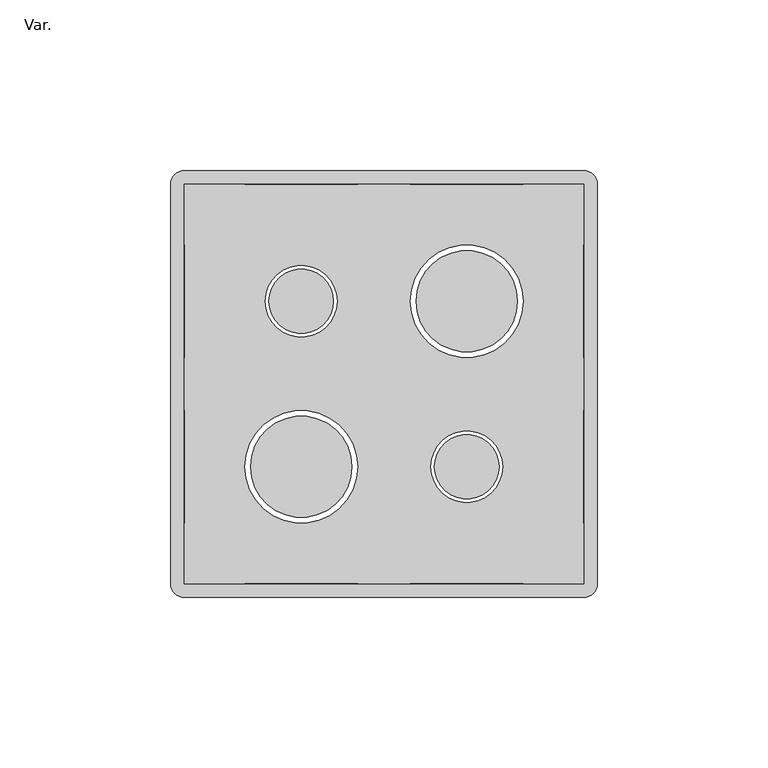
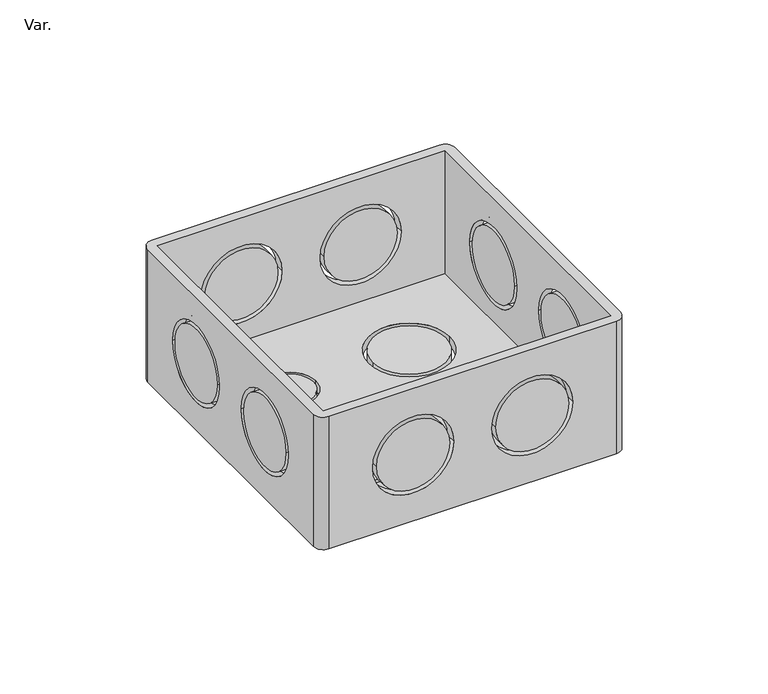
"""IFC4 building model written with IfcOpenShell, lengths in millimetres: cable carrier fitting geometry."""

from ifc_helpers import new_model, si_unit, frame, origin, place, context, project, spatial, polyline, circle_curve, source, transform, mapped, element, save
from ifc_brep_helpers import plane_surface, cylinder_surface, revolved_surface, advanced_brep


def var_0c476a5f(model_context):
    return source(origin(), model_context, "Body", "AdvancedBrep", [
        advanced_brep(
        [(58.5, 62.5, 28.5), (-58.5, 62.5, 28.5), (-62.5, 58.5, 28.5), (-62.5, -58.5, 28.5), (-58.5, -62.5, 28.5), (58.5, -62.5, 28.5), (62.5, -58.5, 28.5), (62.5, 58.5, 28.5), (-58.5, 58.5, 28.5), (58.5, 58.5, 28.5), (58.5, -58.5, 28.5), (-58.5, -58.5, 28.5), (58.5, 62.5, -28.5), (62.5, 58.5, -28.5), (62.5, -58.5, -28.5), (58.5, -62.5, -28.5), (-58.5, -62.5, -28.5), (-62.5, -58.5, -28.5), (-62.5, 58.5, -28.5), (-58.5, 62.5, -28.5), (7.75, 24.25, -28.5), (40.75, 24.25, -28.5), (-40.75, -24.25, -28.5), (-7.75, -24.25, -28.5), (-34.75, 24.25, -28.5), (-13.75, 24.25, -28.5), (13.75, -24.25, -28.5), (34.75, -24.25, -28.5), (-40.75, 62.5, 0.0), (-7.75, 62.5, 0.0), (7.75, 62.5, 0.0), (40.75, 62.5, 0.0), (-62.5, 7.75, 0.0), (-62.5, 40.75, 0.0), (-62.5, -40.75, 0.0), (-62.5, -7.75, 0.0), (-7.75, -62.5, 0.0), (-40.75, -62.5, 0.0), (40.75, -62.5, 0.0), (7.75, -62.5, 0.0), (62.5, 40.75, 0.0), (62.5, 7.75, 0.0), (62.5, -7.75, 0.0), (62.5, -40.75, 0.0), (58.5, 58.5, -24.5), (-58.5, 58.5, -24.5), (-58.5, -58.5, -24.5), (58.5, -58.5, -24.5), (40.75, 24.25, -24.5), (7.75, 24.25, -24.5), (-7.75, -24.25, -24.5), (-40.75, -24.25, -24.5), (-13.75, 24.25, -24.5), (-34.75, 24.25, -24.5), (34.75, -24.25, -24.5), (13.75, -24.25, -24.5), (-7.75, 58.5, 0.0), (-40.75, 58.5, 0.0), (40.75, 58.5, 0.0), (7.75, 58.5, 0.0), (-58.5, 40.75, 0.0), (-58.5, 7.75, 0.0), (-58.5, -7.75, 0.0), (-58.5, -40.75, 0.0), (-40.75, -58.5, 0.0), (-7.75, -58.5, 0.0), (7.75, -58.5, 0.0), (40.75, -58.5, 0.0), (58.5, 7.75, 0.0), (58.5, 40.75, 0.0), (58.5, -40.75, 0.0), (58.5, -7.75, 0.0)],
        [
            (0, 1),
            (1, 2, circle_curve(frame((-58.5, 58.5, 28.5), z_axis=(0.0, 0.0, 1.0), x_axis=(1.0, 0.0, 0.0)), 4.0)),
            (2, 3),
            (3, 4, circle_curve(frame((-58.5, -58.5, 28.5), z_axis=(0.0, 0.0, 1.0), x_axis=(1.0, 0.0, 0.0)), 4.0)),
            (4, 5),
            (5, 6, circle_curve(frame((58.5, -58.5, 28.5), z_axis=(0.0, 0.0, 1.0), x_axis=(1.0, 0.0, 0.0)), 4.0)),
            (6, 7),
            (7, 0, circle_curve(frame((58.5, 58.5, 28.5), z_axis=(0.0, 0.0, 1.0), x_axis=(1.0, 0.0, 0.0)), 4.0)),
            (8, 9),
            (9, 10),
            (10, 11),
            (11, 8),
            (12, 13, circle_curve(frame((58.5, 58.5, -28.5), z_axis=(0.0, 0.0, -1.0), x_axis=(1.0, 0.0, 0.0)), 4.0)),
            (13, 14),
            (14, 15, circle_curve(frame((58.5, -58.5, -28.5), z_axis=(0.0, 0.0, -1.0), x_axis=(1.0, 0.0, 0.0)), 4.0)),
            (15, 16),
            (16, 17, circle_curve(frame((-58.5, -58.5, -28.5), z_axis=(0.0, 0.0, -1.0), x_axis=(1.0, 0.0, 0.0)), 4.0)),
            (17, 18),
            (18, 19, circle_curve(frame((-58.5, 58.5, -28.5), z_axis=(0.0, 0.0, -1.0), x_axis=(1.0, 0.0, 0.0)), 4.0)),
            (19, 12),
            (20, 21, circle_curve(frame((24.25, 24.25, -28.5), z_axis=(0.0, 0.0, 1.0), x_axis=(1.0, 0.0, 0.0)), 16.5)),
            (21, 20, circle_curve(frame((24.25, 24.25, -28.5), z_axis=(0.0, 0.0, 1.0), x_axis=(1.0, 0.0, 0.0)), 16.5)),
            (22, 23, circle_curve(frame((-24.25, -24.25, -28.5), z_axis=(0.0, 0.0, 1.0), x_axis=(1.0, 0.0, 0.0)), 16.5)),
            (23, 22, circle_curve(frame((-24.25, -24.25, -28.5), z_axis=(0.0, 0.0, 1.0), x_axis=(1.0, 0.0, 0.0)), 16.5)),
            (24, 25, circle_curve(frame((-24.25, 24.25, -28.5), z_axis=(0.0, 0.0, 1.0), x_axis=(1.0, 0.0, 0.0)), 10.5)),
            (25, 24, circle_curve(frame((-24.25, 24.25, -28.5), z_axis=(0.0, 0.0, 1.0), x_axis=(1.0, 0.0, 0.0)), 10.5)),
            (26, 27, circle_curve(frame((24.25, -24.25, -28.5), z_axis=(0.0, 0.0, 1.0), x_axis=(1.0, 0.0, 0.0)), 10.5)),
            (27, 26, circle_curve(frame((24.25, -24.25, -28.5), z_axis=(0.0, 0.0, 1.0), x_axis=(1.0, 0.0, 0.0)), 10.5)),
            (0, 12),
            (19, 1),
            (28, 29, circle_curve(frame((-24.25, 62.5, 0.0), z_axis=(0.0, -1.0, 0.0), x_axis=(1.0, 0.0, 0.0)), 16.5)),
            (29, 28, circle_curve(frame((-24.25, 62.5, 0.0), z_axis=(0.0, -1.0, 0.0), x_axis=(1.0, 0.0, 0.0)), 16.5)),
            (30, 31, circle_curve(frame((24.25, 62.5, 0.0), z_axis=(0.0, -1.0, 0.0), x_axis=(1.0, 0.0, 0.0)), 16.5)),
            (31, 30, circle_curve(frame((24.25, 62.5, 0.0), z_axis=(0.0, -1.0, 0.0), x_axis=(1.0, 0.0, 0.0)), 16.5)),
            (18, 2),
            (17, 3),
            (32, 33, circle_curve(frame((-62.5, 24.25, 0.0), z_axis=(1.0, 0.0, 0.0), x_axis=(0.0, -1.0, 0.0)), 16.5)),
            (33, 32, circle_curve(frame((-62.5, 24.25, 0.0), z_axis=(1.0, 0.0, 0.0), x_axis=(0.0, -1.0, 0.0)), 16.5)),
            (34, 35, circle_curve(frame((-62.5, -24.25, 0.0), z_axis=(1.0, 0.0, 0.0), x_axis=(0.0, -1.0, 0.0)), 16.5)),
            (35, 34, circle_curve(frame((-62.5, -24.25, 0.0), z_axis=(1.0, 0.0, 0.0), x_axis=(0.0, -1.0, 0.0)), 16.5)),
            (16, 4),
            (15, 5),
            (36, 37, circle_curve(frame((-24.25, -62.5, 0.0), z_axis=(0.0, 1.0, 0.0), x_axis=(1.0, 0.0, 0.0)), 16.5)),
            (37, 36, circle_curve(frame((-24.25, -62.5, 0.0), z_axis=(0.0, 1.0, 0.0), x_axis=(1.0, 0.0, 0.0)), 16.5)),
            (38, 39, circle_curve(frame((24.25, -62.5, 0.0), z_axis=(0.0, 1.0, 0.0), x_axis=(1.0, 0.0, 0.0)), 16.5)),
            (39, 38, circle_curve(frame((24.25, -62.5, 0.0), z_axis=(0.0, 1.0, 0.0), x_axis=(1.0, 0.0, 0.0)), 16.5)),
            (14, 6),
            (13, 7),
            (40, 41, circle_curve(frame((62.5, 24.25, 0.0), z_axis=(-1.0, 0.0, 0.0), x_axis=(0.0, -1.0, 0.0)), 16.5)),
            (41, 40, circle_curve(frame((62.5, 24.25, 0.0), z_axis=(-1.0, 0.0, 0.0), x_axis=(0.0, -1.0, 0.0)), 16.5)),
            (42, 43, circle_curve(frame((62.5, -24.25, 0.0), z_axis=(-1.0, 0.0, 0.0), x_axis=(0.0, -1.0, 0.0)), 16.5)),
            (43, 42, circle_curve(frame((62.5, -24.25, 0.0), z_axis=(-1.0, 0.0, 0.0), x_axis=(0.0, -1.0, 0.0)), 16.5)),
            (44, 45),
            (45, 46),
            (46, 47),
            (47, 44),
            (48, 49, circle_curve(frame((24.25, 24.25, -24.5), z_axis=(0.0, 0.0, -1.0), x_axis=(1.0, 0.0, 0.0)), 16.5)),
            (49, 48, circle_curve(frame((24.25, 24.25, -24.5), z_axis=(0.0, 0.0, -1.0), x_axis=(1.0, 0.0, 0.0)), 16.5)),
            (50, 51, circle_curve(frame((-24.25, -24.25, -24.5), z_axis=(0.0, 0.0, -1.0), x_axis=(1.0, 0.0, 0.0)), 16.5)),
            (51, 50, circle_curve(frame((-24.25, -24.25, -24.5), z_axis=(0.0, 0.0, -1.0), x_axis=(1.0, 0.0, 0.0)), 16.5)),
            (52, 53, circle_curve(frame((-24.25, 24.25, -24.5), z_axis=(0.0, 0.0, -1.0), x_axis=(1.0, 0.0, 0.0)), 10.5)),
            (53, 52, circle_curve(frame((-24.25, 24.25, -24.5), z_axis=(0.0, 0.0, -1.0), x_axis=(1.0, 0.0, 0.0)), 10.5)),
            (54, 55, circle_curve(frame((24.25, -24.25, -24.5), z_axis=(0.0, 0.0, -1.0), x_axis=(1.0, 0.0, 0.0)), 10.5)),
            (55, 54, circle_curve(frame((24.25, -24.25, -24.5), z_axis=(0.0, 0.0, -1.0), x_axis=(1.0, 0.0, 0.0)), 10.5)),
            (44, 9),
            (8, 45),
            (56, 57, circle_curve(frame((-24.25, 58.5, 0.0), z_axis=(0.0, 1.0, 0.0), x_axis=(1.0, 0.0, 0.0)), 16.5)),
            (57, 56, circle_curve(frame((-24.25, 58.5, 0.0), z_axis=(0.0, 1.0, 0.0), x_axis=(1.0, 0.0, 0.0)), 16.5)),
            (58, 59, circle_curve(frame((24.25, 58.5, 0.0), z_axis=(0.0, 1.0, 0.0), x_axis=(1.0, 0.0, 0.0)), 16.5)),
            (59, 58, circle_curve(frame((24.25, 58.5, 0.0), z_axis=(0.0, 1.0, 0.0), x_axis=(1.0, 0.0, 0.0)), 16.5)),
            (11, 46),
            (60, 61, circle_curve(frame((-58.5, 24.25, 0.0), z_axis=(-1.0, 0.0, 0.0), x_axis=(0.0, -1.0, 0.0)), 16.5)),
            (61, 60, circle_curve(frame((-58.5, 24.25, 0.0), z_axis=(-1.0, 0.0, 0.0), x_axis=(0.0, -1.0, 0.0)), 16.5)),
            (62, 63, circle_curve(frame((-58.5, -24.25, 0.0), z_axis=(-1.0, 0.0, 0.0), x_axis=(0.0, -1.0, 0.0)), 16.5)),
            (63, 62, circle_curve(frame((-58.5, -24.25, 0.0), z_axis=(-1.0, 0.0, 0.0), x_axis=(0.0, -1.0, 0.0)), 16.5)),
            (10, 47),
            (64, 65, circle_curve(frame((-24.25, -58.5, 0.0), z_axis=(0.0, -1.0, 0.0), x_axis=(1.0, 0.0, 0.0)), 16.5)),
            (65, 64, circle_curve(frame((-24.25, -58.5, 0.0), z_axis=(0.0, -1.0, 0.0), x_axis=(1.0, 0.0, 0.0)), 16.5)),
            (66, 67, circle_curve(frame((24.25, -58.5, 0.0), z_axis=(0.0, -1.0, 0.0), x_axis=(1.0, 0.0, 0.0)), 16.5)),
            (67, 66, circle_curve(frame((24.25, -58.5, 0.0), z_axis=(0.0, -1.0, 0.0), x_axis=(1.0, 0.0, 0.0)), 16.5)),
            (68, 69, circle_curve(frame((58.5, 24.25, 0.0), z_axis=(1.0, 0.0, 0.0), x_axis=(0.0, -1.0, 0.0)), 16.5)),
            (69, 68, circle_curve(frame((58.5, 24.25, 0.0), z_axis=(1.0, 0.0, 0.0), x_axis=(0.0, -1.0, 0.0)), 16.5)),
            (70, 71, circle_curve(frame((58.5, -24.25, 0.0), z_axis=(1.0, 0.0, 0.0), x_axis=(0.0, -1.0, 0.0)), 16.5)),
            (71, 70, circle_curve(frame((58.5, -24.25, 0.0), z_axis=(1.0, 0.0, 0.0), x_axis=(0.0, -1.0, 0.0)), 16.5)),
            (28, 57),
            (56, 29),
            (64, 37),
            (36, 65),
            (30, 59),
            (58, 31),
            (66, 39),
            (38, 67),
            (60, 33),
            (32, 61),
            (40, 69),
            (68, 41),
            (62, 35),
            (34, 63),
            (42, 71),
            (70, 43),
            (20, 49),
            (48, 21),
            (22, 51),
            (50, 23),
            (24, 53),
            (52, 25),
            (26, 55),
            (54, 27),
        ],
        [
            plane_surface(frame((-58.5, 62.5, 28.5), z_axis=(0.0, 0.0, 1.0), x_axis=(-1.0, 0.0, 0.0))),
            plane_surface(frame((-58.5, 62.5, -28.5), z_axis=(0.0, 0.0, -1.0), x_axis=(1.0, 0.0, 0.0))),
            plane_surface(frame((58.5, 62.5, 28.5), z_axis=(0.0, 1.0, 0.0), x_axis=(0.0, 0.0, -1.0))),
            cylinder_surface(frame((-58.5, 58.5, -28.5), z_axis=(0.0, 0.0, 1.0), x_axis=(1.0, 0.0, 0.0)), 4.0),
            plane_surface(frame((-62.5, 58.5, 28.5), z_axis=(-1.0, 0.0, 0.0), x_axis=(0.0, 0.0, -1.0))),
            cylinder_surface(frame((-58.5, -58.5, -28.5), z_axis=(0.0, 0.0, 1.0), x_axis=(1.0, 0.0, 0.0)), 4.0),
            plane_surface(frame((-58.5, -62.5, 28.5), z_axis=(0.0, -1.0, 0.0), x_axis=(0.0, 0.0, -1.0))),
            cylinder_surface(frame((58.5, -58.5, -28.5), z_axis=(0.0, 0.0, 1.0), x_axis=(1.0, 0.0, 0.0)), 4.0),
            plane_surface(frame((62.5, -58.5, 28.5), z_axis=(1.0, 0.0, 0.0), x_axis=(0.0, 0.0, -1.0))),
            cylinder_surface(frame((58.5, 58.5, -28.5), z_axis=(0.0, 0.0, 1.0), x_axis=(1.0, 0.0, 0.0)), 4.0),
            plane_surface(frame((-58.5, 58.5, -24.5), z_axis=(0.0, 0.0, 1.0), x_axis=(1.0, 0.0, 0.0))),
            plane_surface(frame((58.5, 58.5, 28.5), z_axis=(0.0, -1.0, 0.0), x_axis=(0.0, 0.0, -1.0))),
            plane_surface(frame((-58.5, 58.5, 28.5), z_axis=(1.0, 0.0, 0.0), x_axis=(0.0, 0.0, -1.0))),
            plane_surface(frame((-58.5, -58.5, 28.5), z_axis=(0.0, 1.0, 0.0), x_axis=(0.0, 0.0, -1.0))),
            plane_surface(frame((58.5, -58.5, 28.5), z_axis=(-1.0, 0.0, 0.0), x_axis=(0.0, 0.0, -1.0))),
            revolved_surface(polyline([(-7.75, 58.5, 0.0), (-7.75, 62.5, 0.0)]), (-24.25, 24.25, 0.0), (0.0, -1.0, 0.0)),
            revolved_surface(polyline([(-7.75, -62.5, 0.0), (-7.75, -58.5, 0.0)]), (-24.25, 24.25, 0.0), (0.0, -1.0, 0.0)),
            revolved_surface(polyline([(40.75, 58.5, 0.0), (40.75, 62.5, 0.0)]), (24.25, 24.25, 0.0), (0.0, -1.0, 0.0)),
            revolved_surface(polyline([(40.75, -62.5, 0.0), (40.75, -58.5, 0.0)]), (24.25, 24.25, 0.0), (0.0, -1.0, 0.0)),
            revolved_surface(polyline([(-62.5, 7.75, 0.0), (-58.5, 7.75, 0.0)]), (75.75, 24.25, 0.0), (-1.0, 0.0, 0.0)),
            revolved_surface(polyline([(58.5, 7.75, 0.0), (62.5, 7.75, 0.0)]), (75.75, 24.25, 0.0), (-1.0, 0.0, 0.0)),
            revolved_surface(polyline([(-62.5, -40.75, 0.0), (-58.5, -40.75, 0.0)]), (-24.25, -24.25, 0.0), (-1.0, 0.0, 0.0)),
            revolved_surface(polyline([(58.5, -40.75, 0.0), (62.5, -40.75, 0.0)]), (-24.25, -24.25, 0.0), (-1.0, 0.0, 0.0)),
            revolved_surface(polyline([(40.75, 24.25, -24.5), (40.75, 24.25, -28.5)]), (24.25, 24.25, 0.0), (0.0, 0.0, 1.0)),
            revolved_surface(polyline([(-7.75, -24.25, -24.5), (-7.75, -24.25, -28.5)]), (-24.25, -24.25, 0.0), (0.0, 0.0, 1.0)),
            revolved_surface(polyline([(-13.75, 24.25, -24.5), (-13.75, 24.25, -28.5)]), (-24.25, 24.25, 0.0), (0.0, 0.0, 1.0)),
            revolved_surface(polyline([(34.75, -24.25, -24.5), (34.75, -24.25, -28.5)]), (24.25, -24.25, 0.0), (0.0, 0.0, 1.0)),
        ],
        [
            (0, [[1, 2, 3, 4, 5, 6, 7, 8], [9, 10, 11, 12]]),
            (1, [[13, 14, 15, 16, 17, 18, 19, 20], [21, 22], [23, 24], [25, 26], [27, 28]]),
            (2, [[-1, 29, -20, 30], [31, 32], [33, 34]]),
            (3, [[-2, -30, -19, 35]]),
            (4, [[-3, -35, -18, 36], [37, 38], [39, 40]]),
            (5, [[-4, -36, -17, 41]]),
            (6, [[-5, -41, -16, 42], [43, 44], [45, 46]]),
            (7, [[-6, -42, -15, 47]]),
            (8, [[-7, -47, -14, 48], [49, 50], [51, 52]]),
            (9, [[-8, -48, -13, -29]]),
            (10, [[53, 54, 55, 56], [57, 58], [59, 60], [61, 62], [63, 64]]),
            (11, [[-53, 65, -9, 66], [67, 68], [69, 70]]),
            (12, [[-54, -66, -12, 71], [72, 73], [74, 75]]),
            (13, [[-55, -71, -11, 76], [77, 78], [79, 80]]),
            (14, [[-56, -76, -10, -65], [81, 82], [83, 84]]),
            (15, [[85, -67, 86, -31]]),
            (16, [[87, -43, 88, -77]]),
            (15, [[-85, -32, -86, -68]]),
            (16, [[-87, -78, -88, -44]]),
            (17, [[89, -69, 90, -33]]),
            (18, [[91, -45, 92, -79]]),
            (17, [[-89, -34, -90, -70]]),
            (18, [[-91, -80, -92, -46]]),
            (19, [[93, -37, 94, -72]]),
            (20, [[95, -81, 96, -49]]),
            (19, [[-93, -73, -94, -38]]),
            (20, [[-95, -50, -96, -82]]),
            (21, [[97, -39, 98, -74]]),
            (22, [[99, -83, 100, -51]]),
            (21, [[-97, -75, -98, -40]]),
            (22, [[-99, -52, -100, -84]]),
            (23, [[101, -57, 102, -21]]),
            (23, [[-101, -22, -102, -58]]),
            (24, [[103, -59, 104, -23]]),
            (24, [[-103, -24, -104, -60]]),
            (25, [[105, -61, 106, -25]]),
            (25, [[-105, -26, -106, -62]]),
            (26, [[107, -63, 108, -27]]),
            (26, [[-107, -28, -108, -64]]),
        ],
    ),
        advanced_brep(
        [(9.4, 24.25, -28.5), (39.1, 24.25, -28.5), (39.1, 24.25, -24.5), (9.4, 24.25, -24.5)],
        [
            (0, 1, circle_curve(frame((24.25, 24.25, -28.5), z_axis=(0.0, 0.0, -1.0), x_axis=(1.0, 0.0, 0.0)), 14.85)),
            (1, 0, circle_curve(frame((24.25, 24.25, -28.5), z_axis=(0.0, 0.0, -1.0), x_axis=(1.0, 0.0, 0.0)), 14.85)),
            (2, 3, circle_curve(frame((24.25, 24.25, -24.5), z_axis=(0.0, 0.0, 1.0), x_axis=(1.0, 0.0, 0.0)), 14.85)),
            (3, 2, circle_curve(frame((24.25, 24.25, -24.5), z_axis=(0.0, 0.0, 1.0), x_axis=(1.0, 0.0, 0.0)), 14.85)),
            (0, 3),
            (2, 1),
        ],
        [
            plane_surface(frame((-58.5, 62.5, -28.5), z_axis=(0.0, 0.0, -1.0), x_axis=(1.0, 0.0, 0.0))),
            plane_surface(frame((-58.5, 58.5, -24.5), z_axis=(0.0, 0.0, 1.0), x_axis=(1.0, 0.0, 0.0))),
            cylinder_surface(frame((24.25, 24.25, -100.0), z_axis=(0.0, 0.0, -1.0), x_axis=(1.0, 0.0, 0.0)), 14.85),
        ],
        [
            (0, [[1, 2]]),
            (1, [[3, 4]]),
            (2, [[5, -3, 6, -1]]),
            (2, [[-5, -2, -6, -4]]),
        ],
    ),
        advanced_brep(
        [(-39.1, -24.25, -28.5), (-9.4, -24.25, -28.5), (-9.4, -24.25, -24.5), (-39.1, -24.25, -24.5)],
        [
            (0, 1, circle_curve(frame((-24.25, -24.25, -28.5), z_axis=(0.0, 0.0, -1.0), x_axis=(1.0, 0.0, 0.0)), 14.85)),
            (1, 0, circle_curve(frame((-24.25, -24.25, -28.5), z_axis=(0.0, 0.0, -1.0), x_axis=(1.0, 0.0, 0.0)), 14.85)),
            (2, 3, circle_curve(frame((-24.25, -24.25, -24.5), z_axis=(0.0, 0.0, 1.0), x_axis=(1.0, 0.0, 0.0)), 14.85)),
            (3, 2, circle_curve(frame((-24.25, -24.25, -24.5), z_axis=(0.0, 0.0, 1.0), x_axis=(1.0, 0.0, 0.0)), 14.85)),
            (0, 3),
            (2, 1),
        ],
        [
            plane_surface(frame((-58.5, 62.5, -28.5), z_axis=(0.0, 0.0, -1.0), x_axis=(1.0, 0.0, 0.0))),
            plane_surface(frame((-58.5, 58.5, -24.5), z_axis=(0.0, 0.0, 1.0), x_axis=(1.0, 0.0, 0.0))),
            cylinder_surface(frame((-24.25, -24.25, 0.0), z_axis=(0.0, 0.0, -1.0), x_axis=(1.0, 0.0, 0.0)), 14.85),
        ],
        [
            (0, [[1, 2]]),
            (1, [[3, 4]]),
            (2, [[5, -3, 6, -1]]),
            (2, [[-5, -2, -6, -4]]),
        ],
    ),
        advanced_brep(
        [(-33.7, 24.25, -28.5), (-14.8, 24.25, -28.5), (-14.8, 24.25, -24.5), (-33.7, 24.25, -24.5)],
        [
            (0, 1, circle_curve(frame((-24.25, 24.25, -28.5), z_axis=(0.0, 0.0, -1.0), x_axis=(1.0, 0.0, 0.0)), 9.45)),
            (1, 0, circle_curve(frame((-24.25, 24.25, -28.5), z_axis=(0.0, 0.0, -1.0), x_axis=(1.0, 0.0, 0.0)), 9.45)),
            (2, 3, circle_curve(frame((-24.25, 24.25, -24.5), z_axis=(0.0, 0.0, 1.0), x_axis=(1.0, 0.0, 0.0)), 9.45)),
            (3, 2, circle_curve(frame((-24.25, 24.25, -24.5), z_axis=(0.0, 0.0, 1.0), x_axis=(1.0, 0.0, 0.0)), 9.45)),
            (0, 3),
            (2, 1),
        ],
        [
            plane_surface(frame((-58.5, 62.5, -28.5), z_axis=(0.0, 0.0, -1.0), x_axis=(1.0, 0.0, 0.0))),
            plane_surface(frame((-58.5, 58.5, -24.5), z_axis=(0.0, 0.0, 1.0), x_axis=(1.0, 0.0, 0.0))),
            cylinder_surface(frame((-24.25, 24.25, 0.0), z_axis=(0.0, 0.0, -1.0), x_axis=(1.0, 0.0, 0.0)), 9.45),
        ],
        [
            (0, [[1, 2]]),
            (1, [[3, 4]]),
            (2, [[5, -3, 6, -1]]),
            (2, [[-5, -2, -6, -4]]),
        ],
    ),
        advanced_brep(
        [(14.8, -24.25, -28.5), (33.7, -24.25, -28.5), (33.7, -24.25, -24.5), (14.8, -24.25, -24.5)],
        [
            (0, 1, circle_curve(frame((24.25, -24.25, -28.5), z_axis=(0.0, 0.0, -1.0), x_axis=(1.0, 0.0, 0.0)), 9.45)),
            (1, 0, circle_curve(frame((24.25, -24.25, -28.5), z_axis=(0.0, 0.0, -1.0), x_axis=(1.0, 0.0, 0.0)), 9.45)),
            (2, 3, circle_curve(frame((24.25, -24.25, -24.5), z_axis=(0.0, 0.0, 1.0), x_axis=(1.0, 0.0, 0.0)), 9.45)),
            (3, 2, circle_curve(frame((24.25, -24.25, -24.5), z_axis=(0.0, 0.0, 1.0), x_axis=(1.0, 0.0, 0.0)), 9.45)),
            (0, 3),
            (2, 1),
        ],
        [
            plane_surface(frame((-58.5, 62.5, -28.5), z_axis=(0.0, 0.0, -1.0), x_axis=(1.0, 0.0, 0.0))),
            plane_surface(frame((-58.5, 58.5, -24.5), z_axis=(0.0, 0.0, 1.0), x_axis=(1.0, 0.0, 0.0))),
            cylinder_surface(frame((24.25, -24.25, 0.0), z_axis=(0.0, 0.0, -1.0), x_axis=(1.0, 0.0, 0.0)), 9.45),
        ],
        [
            (0, [[1, 2]]),
            (1, [[3, 4]]),
            (2, [[5, -3, 6, -1]]),
            (2, [[-5, -2, -6, -4]]),
        ],
    ),
        advanced_brep(
        [(-39.1, 62.5, 0.0), (-9.4, 62.5, 0.0), (-9.4, 58.5, 0.0), (-39.1, 58.5, 0.0)],
        [
            (0, 1, circle_curve(frame((-24.25, 62.5, 0.0), z_axis=(0.0, 1.0, 0.0), x_axis=(1.0, 0.0, 0.0)), 14.85)),
            (1, 0, circle_curve(frame((-24.25, 62.5, 0.0), z_axis=(0.0, 1.0, 0.0), x_axis=(1.0, 0.0, 0.0)), 14.85)),
            (2, 3, circle_curve(frame((-24.25, 58.5, 0.0), z_axis=(0.0, -1.0, 0.0), x_axis=(1.0, 0.0, 0.0)), 14.85)),
            (3, 2, circle_curve(frame((-24.25, 58.5, 0.0), z_axis=(0.0, -1.0, 0.0), x_axis=(1.0, 0.0, 0.0)), 14.85)),
            (0, 3),
            (2, 1),
        ],
        [
            plane_surface(frame((58.5, 62.5, 28.5), z_axis=(0.0, 1.0, 0.0), x_axis=(0.0, 0.0, -1.0))),
            plane_surface(frame((58.5, 58.5, 28.5), z_axis=(0.0, -1.0, 0.0), x_axis=(0.0, 0.0, -1.0))),
            cylinder_surface(frame((-24.25, 124.25, 0.0), z_axis=(0.0, 1.0, 0.0), x_axis=(1.0, 0.0, 0.0)), 14.85),
        ],
        [
            (0, [[1, 2]]),
            (1, [[3, 4]]),
            (2, [[5, -3, 6, -1]]),
            (2, [[-5, -2, -6, -4]]),
        ],
    ),
        advanced_brep(
        [(9.4, 62.5, 0.0), (39.1, 62.5, 0.0), (39.1, 58.5, 0.0), (9.4, 58.5, 0.0)],
        [
            (0, 1, circle_curve(frame((24.25, 62.5, 0.0), z_axis=(0.0, 1.0, 0.0), x_axis=(1.0, 0.0, 0.0)), 14.85)),
            (1, 0, circle_curve(frame((24.25, 62.5, 0.0), z_axis=(0.0, 1.0, 0.0), x_axis=(1.0, 0.0, 0.0)), 14.85)),
            (2, 3, circle_curve(frame((24.25, 58.5, 0.0), z_axis=(0.0, -1.0, 0.0), x_axis=(1.0, 0.0, 0.0)), 14.85)),
            (3, 2, circle_curve(frame((24.25, 58.5, 0.0), z_axis=(0.0, -1.0, 0.0), x_axis=(1.0, 0.0, 0.0)), 14.85)),
            (0, 3),
            (2, 1),
        ],
        [
            plane_surface(frame((58.5, 62.5, 28.5), z_axis=(0.0, 1.0, 0.0), x_axis=(0.0, 0.0, -1.0))),
            plane_surface(frame((58.5, 58.5, 28.5), z_axis=(0.0, -1.0, 0.0), x_axis=(0.0, 0.0, -1.0))),
            cylinder_surface(frame((24.25, 24.25, 0.0), z_axis=(0.0, 1.0, 0.0), x_axis=(1.0, 0.0, 0.0)), 14.85),
        ],
        [
            (0, [[1, 2]]),
            (1, [[3, 4]]),
            (2, [[5, -3, 6, -1]]),
            (2, [[-5, -2, -6, -4]]),
        ],
    ),
        advanced_brep(
        [(-62.5, 9.4, 0.0), (-62.5, 39.1, 0.0), (-58.5, 39.1, 0.0), (-58.5, 9.4, 0.0)],
        [
            (0, 1, circle_curve(frame((-62.5, 24.25, 0.0), z_axis=(-1.0, 0.0, 0.0), x_axis=(0.0, -1.0, 0.0)), 14.85)),
            (1, 0, circle_curve(frame((-62.5, 24.25, 0.0), z_axis=(-1.0, 0.0, 0.0), x_axis=(0.0, -1.0, 0.0)), 14.85)),
            (2, 3, circle_curve(frame((-58.5, 24.25, 0.0), z_axis=(1.0, 0.0, 0.0), x_axis=(0.0, -1.0, 0.0)), 14.85)),
            (3, 2, circle_curve(frame((-58.5, 24.25, 0.0), z_axis=(1.0, 0.0, 0.0), x_axis=(0.0, -1.0, 0.0)), 14.85)),
            (2, 1),
            (0, 3),
        ],
        [
            plane_surface(frame((-62.5, 58.5, 28.5), z_axis=(-1.0, 0.0, 0.0), x_axis=(0.0, 0.0, -1.0))),
            plane_surface(frame((-58.5, 58.5, 28.5), z_axis=(1.0, 0.0, 0.0), x_axis=(0.0, 0.0, -1.0))),
            cylinder_surface(frame((-24.25, 24.25, 0.0), z_axis=(1.0, 0.0, 0.0), x_axis=(0.0, -1.0, 0.0)), 14.85),
        ],
        [
            (0, [[1, 2]]),
            (1, [[3, 4]]),
            (2, [[5, -1, 6, -3]]),
            (2, [[-5, -4, -6, -2]]),
        ],
    ),
        advanced_brep(
        [(-62.5, -39.1, 0.0), (-62.5, -9.4, 0.0), (-58.5, -9.4, 0.0), (-58.5, -39.1, 0.0)],
        [
            (0, 1, circle_curve(frame((-62.5, -24.25, 0.0), z_axis=(-1.0, 0.0, 0.0), x_axis=(0.0, -1.0, 0.0)), 14.85)),
            (1, 0, circle_curve(frame((-62.5, -24.25, 0.0), z_axis=(-1.0, 0.0, 0.0), x_axis=(0.0, -1.0, 0.0)), 14.85)),
            (2, 3, circle_curve(frame((-58.5, -24.25, 0.0), z_axis=(1.0, 0.0, 0.0), x_axis=(0.0, -1.0, 0.0)), 14.85)),
            (3, 2, circle_curve(frame((-58.5, -24.25, 0.0), z_axis=(1.0, 0.0, 0.0), x_axis=(0.0, -1.0, 0.0)), 14.85)),
            (2, 1),
            (0, 3),
        ],
        [
            plane_surface(frame((-62.5, 58.5, 28.5), z_axis=(-1.0, 0.0, 0.0), x_axis=(0.0, 0.0, -1.0))),
            plane_surface(frame((-58.5, 58.5, 28.5), z_axis=(1.0, 0.0, 0.0), x_axis=(0.0, 0.0, -1.0))),
            cylinder_surface(frame((-24.25, -24.25, 0.0), z_axis=(1.0, 0.0, 0.0), x_axis=(0.0, -1.0, 0.0)), 14.85),
        ],
        [
            (0, [[1, 2]]),
            (1, [[3, 4]]),
            (2, [[5, -1, 6, -3]]),
            (2, [[-5, -4, -6, -2]]),
        ],
    ),
        advanced_brep(
        [(-9.4, -62.5, 0.0), (-39.1, -62.5, 0.0), (-39.1, -58.5, 0.0), (-9.4, -58.5, 0.0)],
        [
            (0, 1, circle_curve(frame((-24.25, -62.5, 0.0), z_axis=(0.0, -1.0, 0.0), x_axis=(1.0, 0.0, 0.0)), 14.85)),
            (1, 0, circle_curve(frame((-24.25, -62.5, 0.0), z_axis=(0.0, -1.0, 0.0), x_axis=(1.0, 0.0, 0.0)), 14.85)),
            (2, 3, circle_curve(frame((-24.25, -58.5, 0.0), z_axis=(0.0, 1.0, 0.0), x_axis=(1.0, 0.0, 0.0)), 14.85)),
            (3, 2, circle_curve(frame((-24.25, -58.5, 0.0), z_axis=(0.0, 1.0, 0.0), x_axis=(1.0, 0.0, 0.0)), 14.85)),
            (2, 1),
            (0, 3),
        ],
        [
            plane_surface(frame((-58.5, -62.5, 28.5), z_axis=(0.0, -1.0, 0.0), x_axis=(0.0, 0.0, -1.0))),
            plane_surface(frame((-58.5, -58.5, 28.5), z_axis=(0.0, 1.0, 0.0), x_axis=(0.0, 0.0, -1.0))),
            cylinder_surface(frame((-24.25, 124.25, 0.0), z_axis=(0.0, 1.0, 0.0), x_axis=(1.0, 0.0, 0.0)), 14.85),
        ],
        [
            (0, [[1, 2]]),
            (1, [[3, 4]]),
            (2, [[5, -1, 6, -3]]),
            (2, [[-5, -4, -6, -2]]),
        ],
    ),
        advanced_brep(
        [(39.1, -62.5, 0.0), (9.4, -62.5, 0.0), (9.4, -58.5, 0.0), (39.1, -58.5, 0.0)],
        [
            (0, 1, circle_curve(frame((24.25, -62.5, 0.0), z_axis=(0.0, -1.0, 0.0), x_axis=(1.0, 0.0, 0.0)), 14.85)),
            (1, 0, circle_curve(frame((24.25, -62.5, 0.0), z_axis=(0.0, -1.0, 0.0), x_axis=(1.0, 0.0, 0.0)), 14.85)),
            (2, 3, circle_curve(frame((24.25, -58.5, 0.0), z_axis=(0.0, 1.0, 0.0), x_axis=(1.0, 0.0, 0.0)), 14.85)),
            (3, 2, circle_curve(frame((24.25, -58.5, 0.0), z_axis=(0.0, 1.0, 0.0), x_axis=(1.0, 0.0, 0.0)), 14.85)),
            (2, 1),
            (0, 3),
        ],
        [
            plane_surface(frame((-58.5, -62.5, 28.5), z_axis=(0.0, -1.0, 0.0), x_axis=(0.0, 0.0, -1.0))),
            plane_surface(frame((-58.5, -58.5, 28.5), z_axis=(0.0, 1.0, 0.0), x_axis=(0.0, 0.0, -1.0))),
            cylinder_surface(frame((24.25, 24.25, 0.0), z_axis=(0.0, 1.0, 0.0), x_axis=(1.0, 0.0, 0.0)), 14.85),
        ],
        [
            (0, [[1, 2]]),
            (1, [[3, 4]]),
            (2, [[5, -1, 6, -3]]),
            (2, [[-5, -4, -6, -2]]),
        ],
    ),
        advanced_brep(
        [(62.5, 39.1, 0.0), (62.5, 9.4, 0.0), (58.5, 9.4, 0.0), (58.5, 39.1, 0.0)],
        [
            (0, 1, circle_curve(frame((62.5, 24.25, 0.0), z_axis=(1.0, 0.0, 0.0), x_axis=(0.0, -1.0, 0.0)), 14.85)),
            (1, 0, circle_curve(frame((62.5, 24.25, 0.0), z_axis=(1.0, 0.0, 0.0), x_axis=(0.0, -1.0, 0.0)), 14.85)),
            (2, 3, circle_curve(frame((58.5, 24.25, 0.0), z_axis=(-1.0, 0.0, 0.0), x_axis=(0.0, -1.0, 0.0)), 14.85)),
            (3, 2, circle_curve(frame((58.5, 24.25, 0.0), z_axis=(-1.0, 0.0, 0.0), x_axis=(0.0, -1.0, 0.0)), 14.85)),
            (0, 3),
            (2, 1),
        ],
        [
            plane_surface(frame((62.5, -58.5, 28.5), z_axis=(1.0, 0.0, 0.0), x_axis=(0.0, 0.0, -1.0))),
            plane_surface(frame((58.5, -58.5, 28.5), z_axis=(-1.0, 0.0, 0.0), x_axis=(0.0, 0.0, -1.0))),
            cylinder_surface(frame((-24.25, 24.25, 0.0), z_axis=(1.0, 0.0, 0.0), x_axis=(0.0, -1.0, 0.0)), 14.85),
        ],
        [
            (0, [[1, 2]]),
            (1, [[3, 4]]),
            (2, [[5, -3, 6, -1]]),
            (2, [[-5, -2, -6, -4]]),
        ],
    ),
        advanced_brep(
        [(62.5, -9.4, 0.0), (62.5, -39.1, 0.0), (58.5, -39.1, 0.0), (58.5, -9.4, 0.0)],
        [
            (0, 1, circle_curve(frame((62.5, -24.25, 0.0), z_axis=(1.0, 0.0, 0.0), x_axis=(0.0, -1.0, 0.0)), 14.85)),
            (1, 0, circle_curve(frame((62.5, -24.25, 0.0), z_axis=(1.0, 0.0, 0.0), x_axis=(0.0, -1.0, 0.0)), 14.85)),
            (2, 3, circle_curve(frame((58.5, -24.25, 0.0), z_axis=(-1.0, 0.0, 0.0), x_axis=(0.0, -1.0, 0.0)), 14.85)),
            (3, 2, circle_curve(frame((58.5, -24.25, 0.0), z_axis=(-1.0, 0.0, 0.0), x_axis=(0.0, -1.0, 0.0)), 14.85)),
            (0, 3),
            (2, 1),
        ],
        [
            plane_surface(frame((62.5, -58.5, 28.5), z_axis=(1.0, 0.0, 0.0), x_axis=(0.0, 0.0, -1.0))),
            plane_surface(frame((58.5, -58.5, 28.5), z_axis=(-1.0, 0.0, 0.0), x_axis=(0.0, 0.0, -1.0))),
            cylinder_surface(frame((-24.25, -24.25, 0.0), z_axis=(1.0, 0.0, 0.0), x_axis=(0.0, -1.0, 0.0)), 14.85),
        ],
        [
            (0, [[1, 2]]),
            (1, [[3, 4]]),
            (2, [[5, -3, 6, -1]]),
            (2, [[-5, -2, -6, -4]]),
        ],
    ),
    ])


if __name__ == "__main__":
    model = new_model("IFC4")
    model_context = context("Model", 3, world=origin())
    ifc_project = project(units=[si_unit("LENGTHUNIT", "METRE", prefix="MILLI")], contexts=[model_context])
    site = spatial("IfcSite", under=ifc_project)
    building = spatial("IfcBuilding", under=site)
    placement = place(None, origin())
    var_shape = var_0c476a5f(model_context)
    element("IfcCableCarrierFitting", 1, ObjectType="AmancoWavin_Unionesdetubería_ConduitCajaCuadrada_1\" : Var.", at=placement, inside=building, context=model_context, shape_type="MappedRepresentation", body=[
        mapped(var_shape, transform((0.0, 0.0, 0.0), x_axis=(1.0, 0.0, 0.0), y_axis=(0.0, 1.0, 0.0), z_axis=(0.0, 0.0, 1.0))),
    ])
    save(model, "model.ifc")
